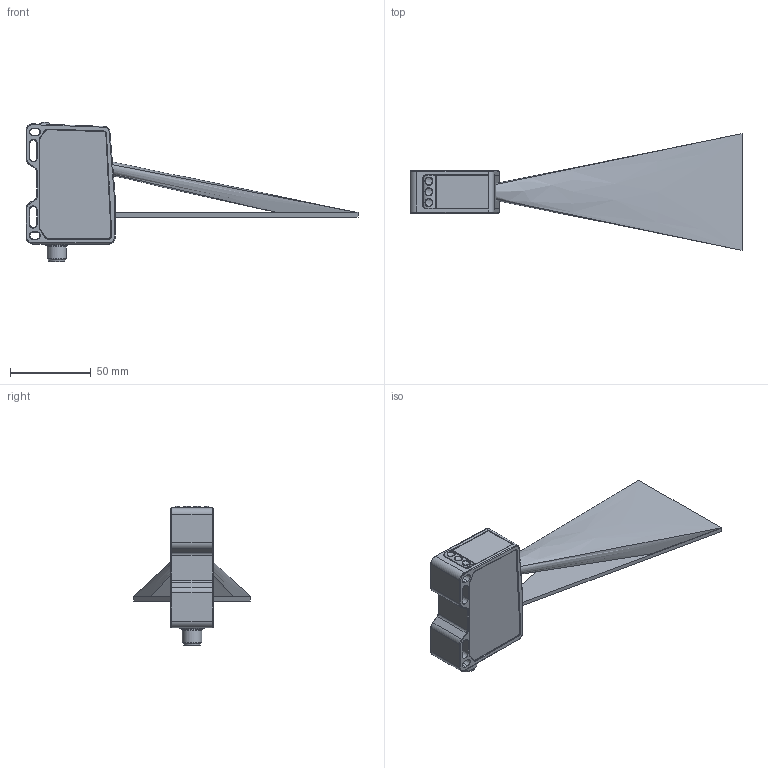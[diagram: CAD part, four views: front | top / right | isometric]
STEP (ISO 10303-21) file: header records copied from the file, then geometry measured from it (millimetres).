
FILE_DESCRIPTION( ( 'Unknown' ), '1' );
FILE_NAME( 'X:/SolidEdge/Models/Dokumentationen/Opto/Ox700/Laserlinie/Vereinfachte Modelle/Neutralformate/Ox700_MB100-0150_B072_OB08.stp', 'Unknown', ( 'Unknown' ), ( 'Unknown' ), 'PSStep 19.0.9', 'Unknown', ' ' );
FILE_SCHEMA( ( 'AUTOMOTIVE_DESIGN { 1 0 10303 214 1 1 1 1 }' ) );
Length unit declared in the file: millimetre
Products named in the file (4): Assem1; Ox700_ohnePfeil; MB100-0150_B072_OB08
Assembly tree (3 placements, depth 2):
  Assem1
    Ox700_ohnePfeil
    MB100-0150_B072_OB08
    MB100-0150_B072_OB08
Bounding box: 205 x 72 x 85.98 mm (x, y, z)
Volume: 151671.7 mm3; surface area: 45136.3 mm2
Topology: 3 solids, 3 shells, 304 faces, 716 edges, 432 vertices
Faces by surface type: plane 109, cylinder 99, bspline 36, cone 33, torus 19, sphere 8
Full cylindrical faces by diameter (mm): 0.01 x1, 0.8 x8, 8.3 x1, 12 x2
Entity records: 16341 total; most frequent: CARTESIAN_POINT 7089, DIRECTION 1447, ORIENTED_EDGE 1338, EDGE_CURVE 669, AXIS2_PLACEMENT_3D 541, VERTEX_POINT 420, LINE 365, VECTOR 365
